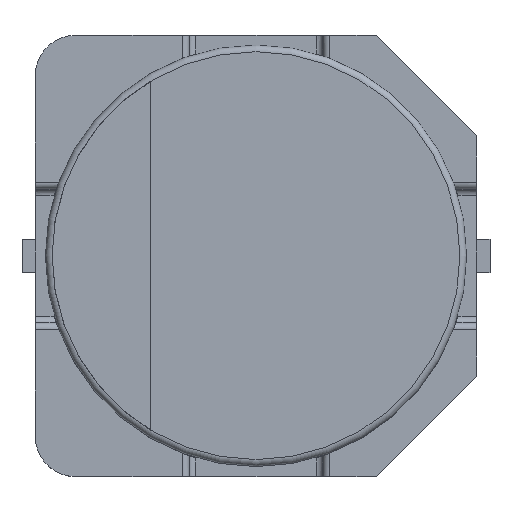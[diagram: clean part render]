
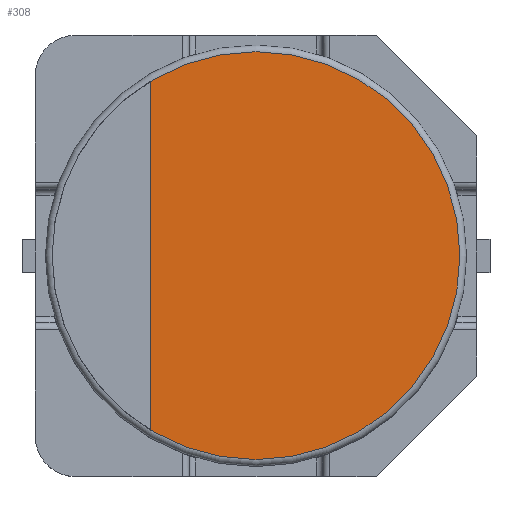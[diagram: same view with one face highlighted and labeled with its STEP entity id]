
A CAD part, top view. The second image highlights one B-rep face of the part: STEP entity #308.
In plain terms, the highlighted planar face has unit normal (0, 0, 1).
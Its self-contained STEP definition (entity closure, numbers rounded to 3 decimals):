
#308=ADVANCED_FACE('',(#409),#352,.F.);
#352=PLANE('',#1443);
#409=FACE_OUTER_BOUND('',#493,.T.);
#493=EDGE_LOOP('',(#812));
#562=CIRCLE('',#1442,3.05);
#812=ORIENTED_EDGE('',*,*,#1128,.T.);
#979=VERTEX_POINT('',#2227);
#1128=EDGE_CURVE('',#979,#979,#562,.T.);
#1442=AXIS2_PLACEMENT_3D('',#2226,#1733,#1734);
#1443=AXIS2_PLACEMENT_3D('',#2228,#1735,#1736);
#1733=DIRECTION('',(0.,0.,1.));
#1734=DIRECTION('',(-1.,0.,0.));
#1735=DIRECTION('',(0.,0.,-1.));
#1736=DIRECTION('',(-1.,0.,0.));
#2226=CARTESIAN_POINT('',(0.,0.,3.9));
#2227=CARTESIAN_POINT('',(-3.05,0.,3.9));
#2228=CARTESIAN_POINT('',(0.,0.,3.9));
